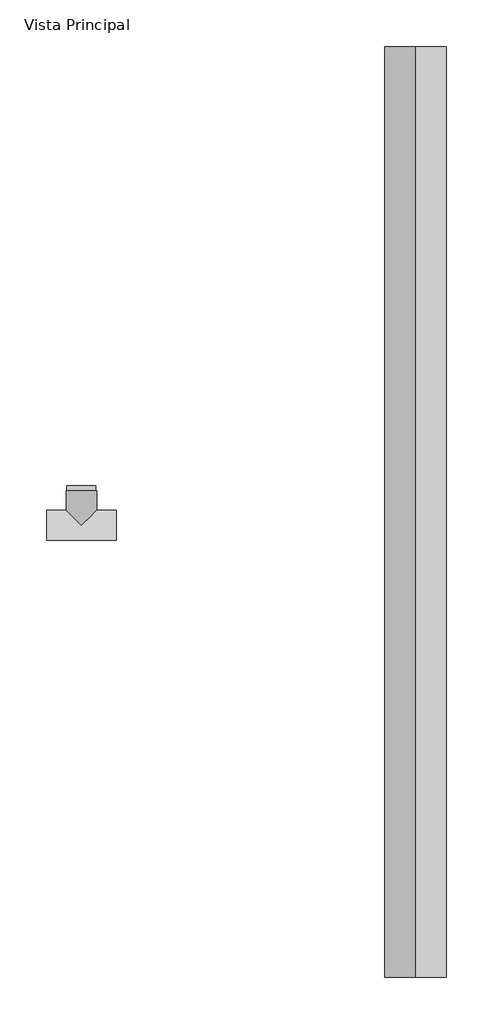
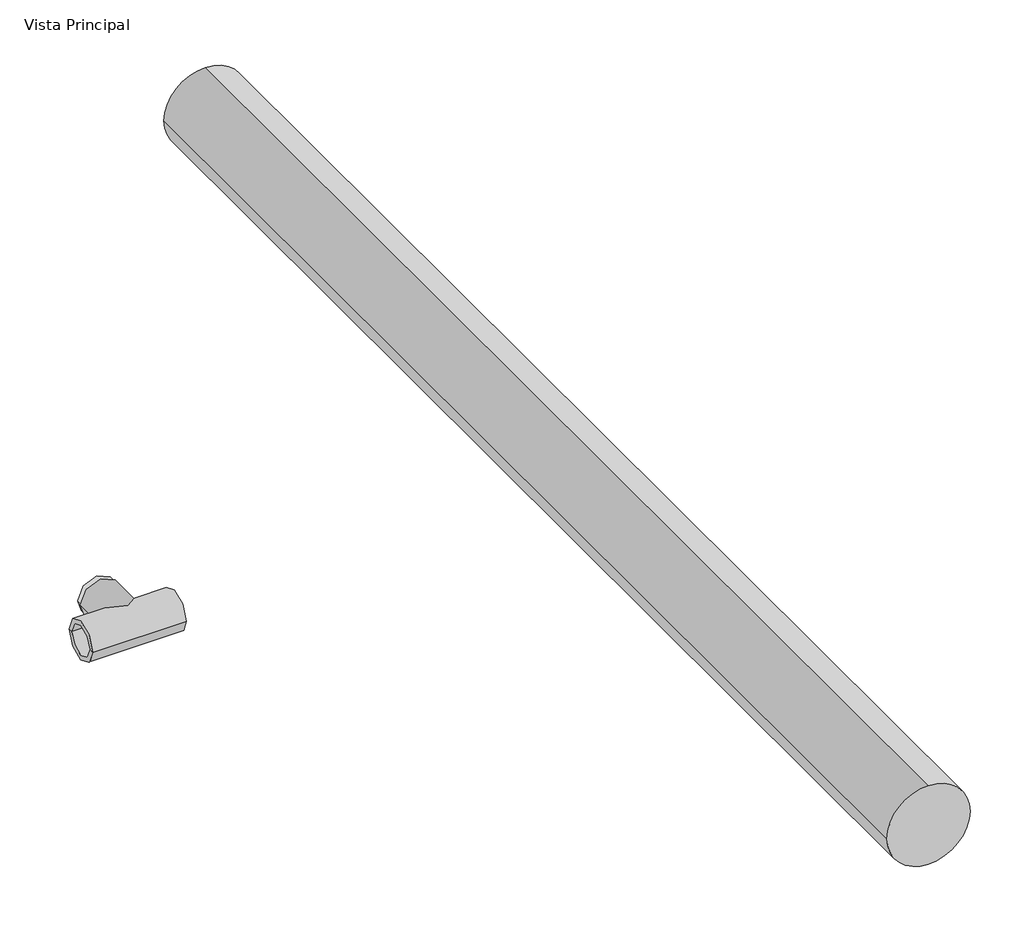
# One storey, incomplete: 2 pipe fittings, 1 pipe segment.
"""IFC4 building model written with IfcOpenShell, lengths in millimetres."""

from ifc_helpers import new_model, si_unit, point, frame, frame_2d, origin, place, context, project, spatial, circle_curve, trimmed, segment, composite_curve, outline, extrude, transform, mapped, element, save
from components import sch40_c5e482b5, var_74b1aaee

model = new_model("IFC4")

# Units and contexts
model_context = context("Model", 3, world=origin())
ifc_project = project(units=[si_unit("LENGTHUNIT", "METRE", prefix="MILLI")], contexts=[model_context])

# Site, building, storey
site = spatial("IfcSite", under=ifc_project)
building = spatial("IfcBuilding", under=site)
storey = spatial("IfcBuildingStorey", under=building, Name="Vista Principal", Elevation=0.0)

# Pipe fittings
placement = place(None, origin())
sch40_shape = sch40_c5e482b5(model_context)
element("IfcPipeFitting", 1, ObjectType="AmancoWavin_Unionesdetubería_Ced-80ZNoUsarRReducciónBushing : SCH40", at=placement, inside=storey, context=model_context, shape_type="MappedRepresentation", body=[
    mapped(sch40_shape, transform((1165.2502233, 880.1419381, 1.0), x_axis=(0.0, 1.0, 0.0), y_axis=(1.0, 0.0, 0.0), z_axis=(0.0, 0.0, -1.0))),
])
var_shape = var_74b1aaee(model_context)
element("IfcPipeFitting", 2, ObjectType="AmancoWavin_Unionesdetubería_Ced-80Tee : Var.", at=placement, inside=storey, context=model_context, shape_type="MappedRepresentation", body=[
    mapped(var_shape, transform((1165.2502233, 863.0706155, 1.0), x_axis=(-1.0, 0.0, 0.0), y_axis=(0.0, 1.0, 0.0), z_axis=(0.0, 0.0, -1.0))),
])

# Pipe segment
element("IfcPipeSegment", 3, ObjectType="AmancoWavin_Tuberías_Cédula 80 ½\" - 8\" (6 mts)", at=placement, inside=storey, context=model_context, shape_type="SweptSolid", body=[
    extrude(outline(composite_curve([segment(trimmed(circle_curve(frame_2d((1.0, 1646.329608)), 44.45), [point((1.0, 1601.879608))], [point((-43.45, 1646.329608))], False, "CARTESIAN"), True, "CONTINUOUS"), segment(trimmed(circle_curve(frame_2d((1.0, 1646.329608)), 44.45), [point((-43.45, 1646.329608))], [point((1.0, 1690.779608))], False, "CARTESIAN"), True, "CONTINUOUS"), segment(trimmed(circle_curve(frame_2d((1.0, 1646.329608)), 44.45), [point((1.0, 1690.779608))], [point((45.45, 1646.329608))], False, "CARTESIAN"), True, "CONTINUOUS"), segment(trimmed(circle_curve(frame_2d((1.0, 1646.329608)), 44.45), [point((45.45, 1646.329608))], [point((1.0, 1601.879608))], False, "CARTESIAN"), True, "CONTINUOUS")], self_intersect=False)), frame((0.0, 212.1860886, 0.0), z_axis=(0.0, 1.0, 0.0), x_axis=(0.0, 0.0, 1.0)), (0.0, 0.0, 1.0), 1340.0),
])

save(model, "model.ifc")
